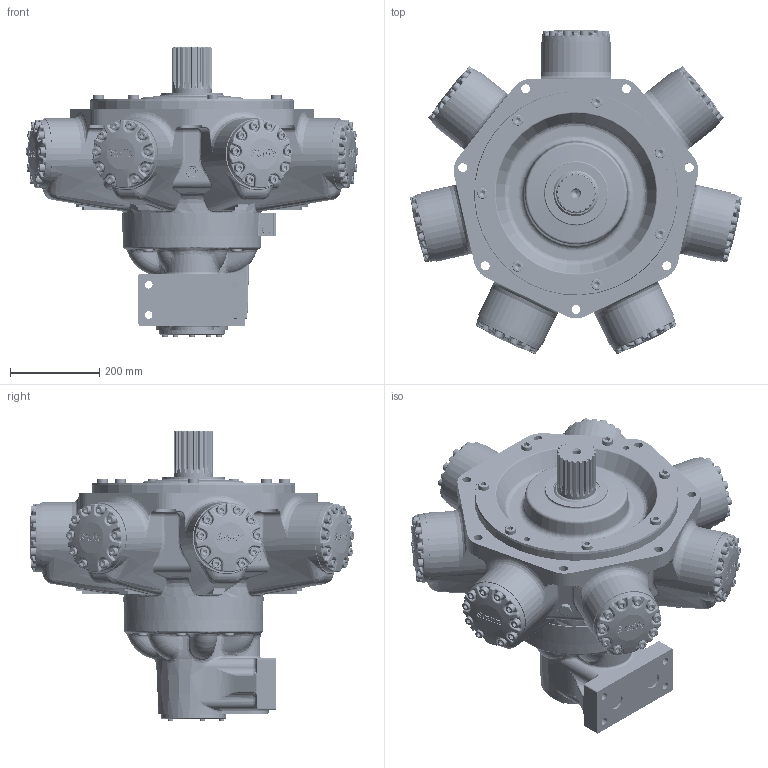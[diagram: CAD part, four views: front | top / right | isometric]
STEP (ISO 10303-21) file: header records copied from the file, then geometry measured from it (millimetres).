
FILE_DESCRIPTION(/* description */ (''),/* implementation_level */ '2;1');
FILE_NAME(/* name */ 'HMC325_S3_SM4_C.stp',/* time_stamp */ '2025-06-12T15:12:36+01:00',/* author */ ('ccallanga'),/* organization */ (''),/* preprocessor_version */ 'ST-DEVELOPER v20',/* originating_system */ 'Autodesk Inventor 2024',/* authorisation */ '');
FILE_SCHEMA (('AUTOMOTIVE_DESIGN { 1 0 10303 214 3 1 1 }'));
Products named in the file (1): 017753 HMC325 Web Assembly_Simplify_1
Bounding box: 744.35 x 728.18 x 648.78 mm (x, y, z)
Volume: 75852655.2 mm3; surface area: 1761469 mm2
Topology: 1 solids, 1 shells, 6176 faces, 14956 edges, 8814 vertices
Faces by surface type: bspline 2360, plane 1607, cylinder 1309, torus 563, cone 175, sphere 162
Full cylindrical faces by diameter (mm): 4 x1, 4.134 x4, 5 x4, 5.5 x4, 6.05 x2, 11.913 x5, 12.7 x5, 14.351 x2, 16.51 x1, 17 x4, 17.323 x1, 19 x1, 19.05 x70, 20 x7, 20.637 x70, 23.825 x14, 25 x5, 25.4 x14, 26.92 x2, 38 x2, 38.1 x3, 87.884 x1, 101.575 x1, 106.68 x1, 139.7 x1, 146.05 x1, 311 x1, 311.15 x1, 457.11 x1
Entity records: 277790 total; most frequent: CARTESIAN_POINT 145370, ORIENTED_EDGE 29354, DIRECTION 21090, EDGE_CURVE 14677, VERTEX_POINT 8814, AXIS2_PLACEMENT_3D 8281, EDGE_LOOP 6509, STYLED_ITEM 6177
